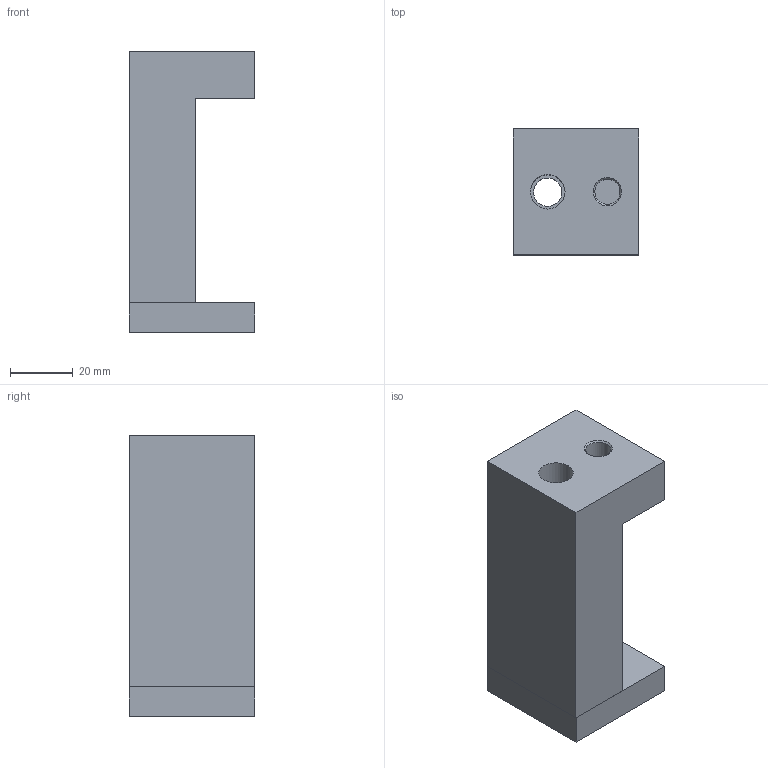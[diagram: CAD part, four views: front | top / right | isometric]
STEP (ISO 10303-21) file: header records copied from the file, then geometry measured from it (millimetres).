
FILE_DESCRIPTION(/* description */ (''),/* implementation_level */ '2;1');
FILE_NAME(/* name */ 'C:\Local Work Area\Progetti\AP\CALIBRI\08 Azzeratori\08.80.stp',/* time_stamp */ '2019-06-12T15:03:25+02:00',/* author */ ('CAD5'),/* organization */ (''),/* preprocessor_version */ 'ST-DEVELOPER v17.2',/* originating_system */ 'Autodesk Inventor 2019',/* authorisation */ '43005,1 mm^3');
FILE_SCHEMA (('AUTOMOTIVE_DESIGN { 1 0 10303 214 3 1 1 }'));
Length unit declared in the file: millimetre
Products named in the file (4): 08.80; 08.60; 08.81; UNI 5931 - M 5 x  12
Assembly tree (4 placements, depth 2):
  08.80
    08.60
    08.81
    UNI 5931 - M 5 x  12  x2
Bounding box: 40 x 40 x 89.5 mm (x, y, z)
Volume: 84283.3 mm3; surface area: 22936.7 mm2
Topology: 4 solids, 4 shells, 58 faces, 156 edges, 110 vertices
Faces by surface type: plane 34, cylinder 13, cone 7, torus 4
Full cylindrical faces by diameter (mm): 4.134 x2, 5 x2, 5.5 x2, 8 x1, 8.5 x2, 9 x1, 10 x2, 11 x1
Entity records: 1529 total; most frequent: CARTESIAN_POINT 258, DIRECTION 254, ORIENTED_EDGE 224, EDGE_CURVE 112, AXIS2_PLACEMENT_3D 98, VERTEX_POINT 81, EDGE_LOOP 59, LINE 58
